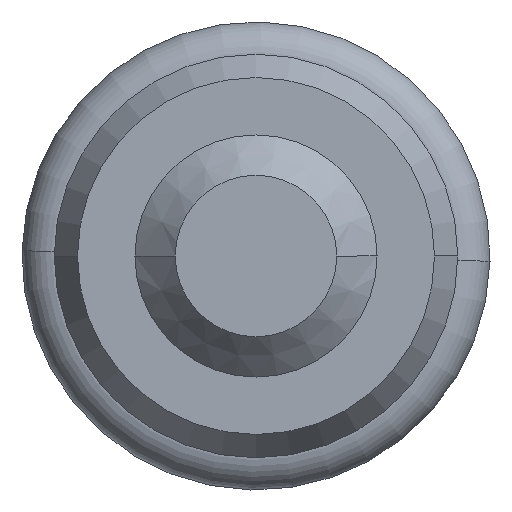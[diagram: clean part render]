
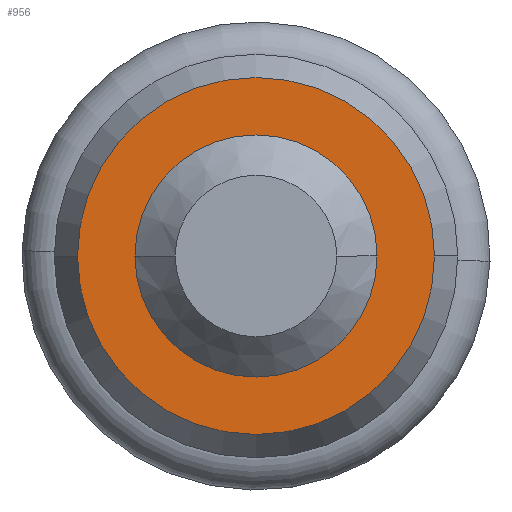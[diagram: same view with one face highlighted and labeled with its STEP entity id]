
A CAD part, front view. The second image highlights one B-rep face of the part: STEP entity #956.
In plain terms, the highlighted planar face has unit normal (0, -1, 0).
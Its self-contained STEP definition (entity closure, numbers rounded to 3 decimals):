
#7 = VERTEX_POINT ( 'NONE', #505 ) ;
#37 = EDGE_CURVE ( 'NONE', #7, #338, #523, .T. ) ;
#48 = DIRECTION ( 'NONE',  ( -1., 0., 0. ) ) ;
#52 = FACE_BOUND ( 'NONE', #85, .T. ) ;
#85 = EDGE_LOOP ( 'NONE', ( #869, #654 ) ) ;
#124 = CIRCLE ( 'NONE', #909, 4.423 ) ;
#225 = CARTESIAN_POINT ( 'NONE',  ( 3., -38., 0. ) ) ;
#231 = CARTESIAN_POINT ( 'NONE',  ( 0., -38., 0. ) ) ;
#273 = VERTEX_POINT ( 'NONE', #1006 ) ;
#314 = PLANE ( 'NONE',  #443 ) ;
#338 = VERTEX_POINT ( 'NONE', #225 ) ;
#384 = DIRECTION ( 'NONE',  ( 0., -1., 0. ) ) ;
#393 = DIRECTION ( 'NONE',  ( 0., 1., 0. ) ) ;
#399 = CARTESIAN_POINT ( 'NONE',  ( 3., -38., 0. ) ) ;
#426 = AXIS2_PLACEMENT_3D ( 'NONE', #855, #944, #949 ) ;
#439 = EDGE_CURVE ( 'NONE', #273, #781, #124, .T. ) ;
#443 = AXIS2_PLACEMENT_3D ( 'NONE', #399, #840, #697 ) ;
#505 = CARTESIAN_POINT ( 'NONE',  ( -3., -38., 0. ) ) ;
#523 = CIRCLE ( 'NONE', #426, 3. ) ;
#566 = CARTESIAN_POINT ( 'NONE',  ( 0., -38., 0. ) ) ;
#587 = EDGE_CURVE ( 'NONE', #338, #7, #946, .T. ) ;
#634 = AXIS2_PLACEMENT_3D ( 'NONE', #231, #918, #670 ) ;
#654 = ORIENTED_EDGE ( 'NONE', *, *, #587, .T. ) ;
#670 = DIRECTION ( 'NONE',  ( -1., 0., 0. ) ) ;
#693 = ORIENTED_EDGE ( 'NONE', *, *, #439, .T. ) ;
#697 = DIRECTION ( 'NONE',  ( -1., 0., 0. ) ) ;
#737 = EDGE_CURVE ( 'NONE', #781, #273, #1007, .T. ) ;
#755 = CARTESIAN_POINT ( 'NONE',  ( 4.423, -38., 0. ) ) ;
#781 = VERTEX_POINT ( 'NONE', #755 ) ;
#818 = DIRECTION ( 'NONE',  ( -1., 0., 0. ) ) ;
#823 = CARTESIAN_POINT ( 'NONE',  ( 0., -38., 0. ) ) ;
#827 = AXIS2_PLACEMENT_3D ( 'NONE', #823, #393, #48 ) ;
#840 = DIRECTION ( 'NONE',  ( 0., 1., 0. ) ) ;
#855 = CARTESIAN_POINT ( 'NONE',  ( 0., -38., 0. ) ) ;
#869 = ORIENTED_EDGE ( 'NONE', *, *, #37, .T. ) ;
#909 = AXIS2_PLACEMENT_3D ( 'NONE', #566, #384, #818 ) ;
#918 = DIRECTION ( 'NONE',  ( 0., -1., 0. ) ) ;
#944 = DIRECTION ( 'NONE',  ( 0., 1., 0. ) ) ;
#946 = CIRCLE ( 'NONE', #827, 3. ) ;
#949 = DIRECTION ( 'NONE',  ( -1., 0., 0. ) ) ;
#956 = ADVANCED_FACE ( 'Faccia1', ( #1036, #52 ), #314, .F. ) ;
#1006 = CARTESIAN_POINT ( 'NONE',  ( -4.423, -38., 0. ) ) ;
#1007 = CIRCLE ( 'NONE', #634, 4.423 ) ;
#1024 = ORIENTED_EDGE ( 'NONE', *, *, #737, .T. ) ;
#1036 = FACE_OUTER_BOUND ( 'NONE', #1109, .T. ) ;
#1109 = EDGE_LOOP ( 'NONE', ( #693, #1024 ) ) ;
